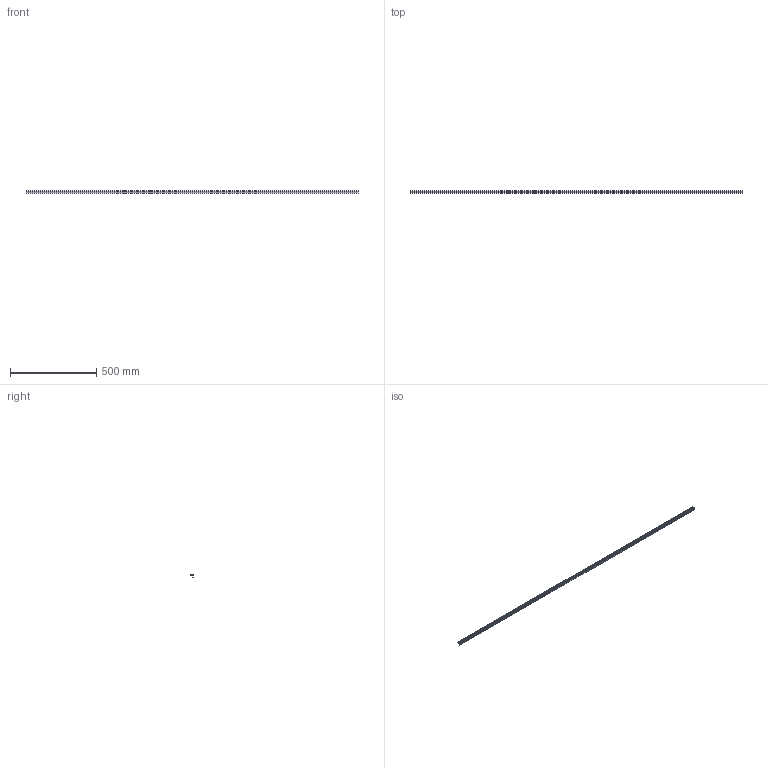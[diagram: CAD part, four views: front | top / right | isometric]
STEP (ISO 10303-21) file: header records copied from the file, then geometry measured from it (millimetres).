
FILE_DESCRIPTION( ( 'STEP AP214' ), '1' );
FILE_NAME( 'C:/Users/KOSH/Desktop/Same as task/Sliding folding/9275478.stp', '2021-07-01T13:41:37', ( '' ), ( '' ), ' ', 'PARTsolutions', ' ' );
FILE_SCHEMA( ( 'AUTOMOTIVE_DESIGN { 1 0 10303 214 1 1 1 1 }' ) );
Length unit declared in the file: millimetre
Products named in the file (1): _9275478
Bounding box: 1923 x 16 x 13.1 mm (x, y, z)
Volume: 92686.3 mm3; surface area: 129809.2 mm2
Topology: 1 solids, 1 shells, 38 faces, 108 edges, 72 vertices
Faces by surface type: plane 34, cylinder 4
Entity records: 1540 total; most frequent: CARTESIAN_POINT 219, ORIENTED_EDGE 216, DIRECTION 194, EDGE_CURVE 108, LINE 100, VECTOR 100, VERTEX_POINT 72, AXIS2_PLACEMENT_3D 47
